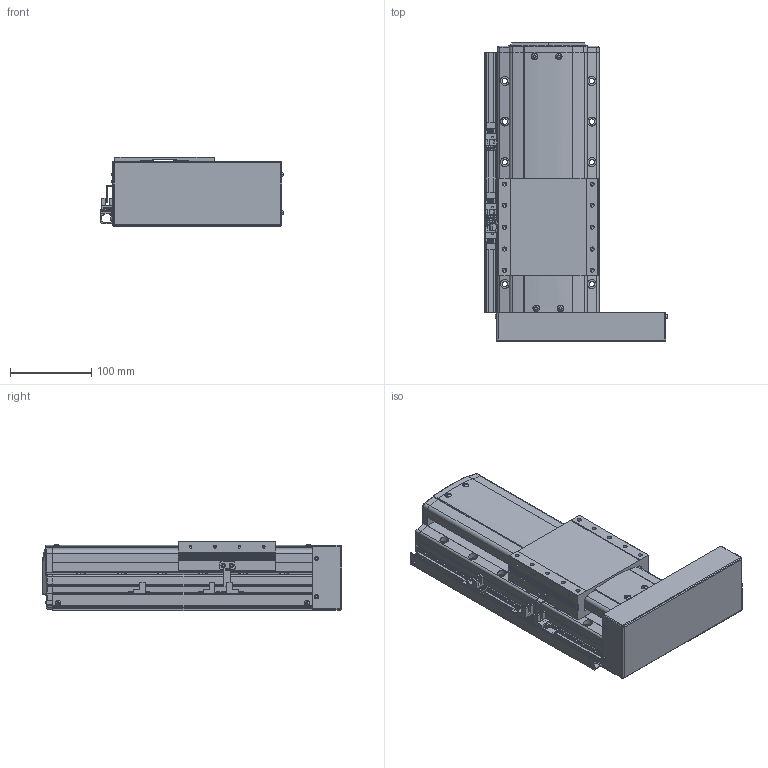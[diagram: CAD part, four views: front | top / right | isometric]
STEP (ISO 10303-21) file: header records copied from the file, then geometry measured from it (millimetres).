
FILE_DESCRIPTION(('STEP AP214'),'1');
FILE_NAME('Z:/Web/3D/PSA125/STP/PSA125-100 (3D)/PSA125ㅁㅁ-100PR+3SL.stp','2014-06-20T08:38:36',(' '),(' '),'Spatial InterOp 3D',' ',' ');
FILE_SCHEMA(('automotive_design'));
Length unit declared in the file: millimetre
Products named in the file (41): 스크루 : Round - M4.0 x 10.0; RRCV-PA120; SLIDE; BASE; FRCV-PA120-1(기준 뿔 제거); RR1500; 스크루 : Round - M4.0 x 6.0; 너트 : Square - M10.0 x 220.7419; BTCV - 60A; 스크루 : Round - M3.0 x 6.0; EE-SX674; SBK-SX674-352; M3.0 x 6.0; SRL-16x17-380L; SGD-PA95; 스크루 : Round - M3.0 x 8.0
Bounding box: 225.06 x 368.6 x 86 mm (x, y, z)
Volume: 3544635.9 mm3; surface area: 402514.1 mm2
Topology: 41 solids, 41 shells, 2373 faces, 6313 edges, 4061 vertices
Faces by surface type: plane 1401, cylinder 640, cone 212, sphere 64, bspline 31, torus 25
Entity records: 94870 total; most frequent: CARTESIAN_POINT 15430, DIRECTION 12607, ORIENTED_EDGE 12402, EDGE_CURVE 6201, LINE 4249, VECTOR 4249, AXIS2_PLACEMENT_3D 4179, VERTEX_POINT 4061
